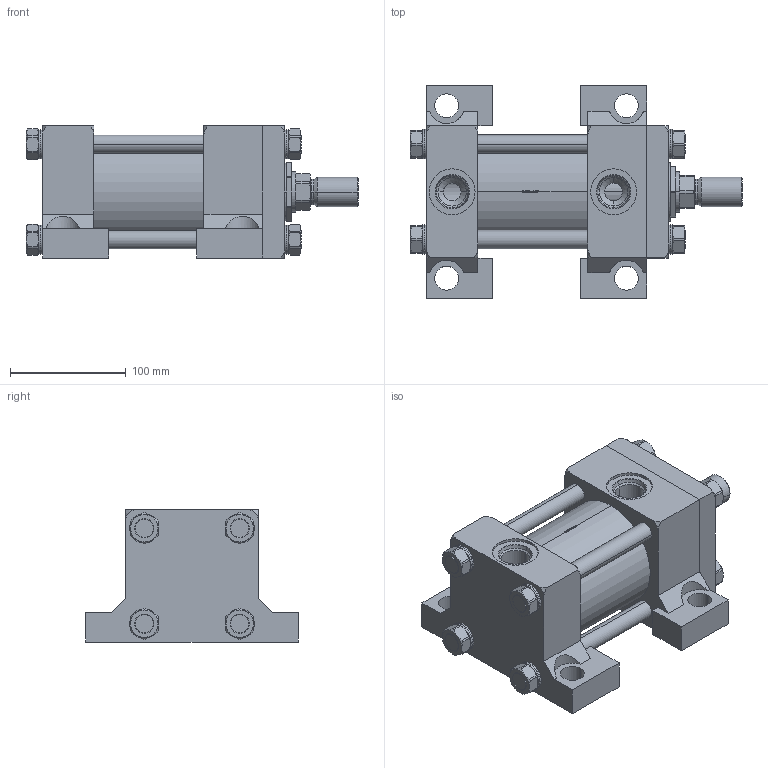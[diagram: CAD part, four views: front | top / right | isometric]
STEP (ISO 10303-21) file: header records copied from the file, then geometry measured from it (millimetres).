
FILE_DESCRIPTION (( 'STEP AP214' ), '1' );
FILE_NAME ('3.25C2HHNAT114A2.000.step', '2026-03-26T21:12:32', ( '' ), ( '' ), 'SwSTEP 2.0', 'SolidWorks 2023', '' );
FILE_SCHEMA (( 'AUTOMOTIVE_DESIGN' ));
Length unit declared in the file: inch
Products named in the file (1): 3.25C2HHNAT114A2.000
Bounding box: 287.34 x 184.15 x 114.3 mm (x, y, z)
Volume: 2209073.5 mm3; surface area: 395108.3 mm2
Topology: 47 solids, 47 shells, 1257 faces, 3241 edges, 2086 vertices
Faces by surface type: plane 807, cylinder 227, cone 163, bspline 52, torus 8
Entity records: 57123 total; most frequent: CARTESIAN_POINT 11585, ORIENTED_EDGE 6482, DIRECTION 5251, EDGE_CURVE 3241, VERTEX_POINT 2086, AXIS2_PLACEMENT_3D 1776, LINE 1699, VECTOR 1699
